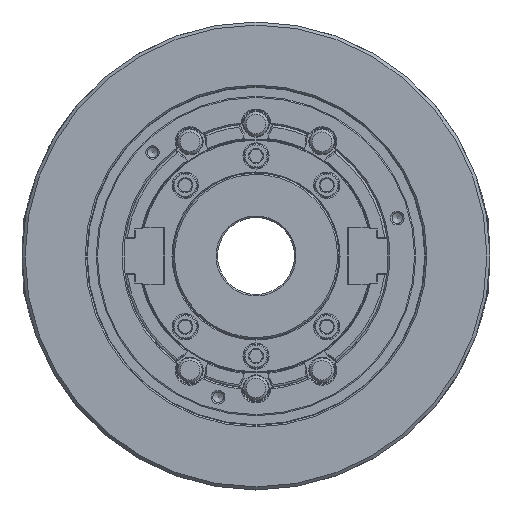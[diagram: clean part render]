
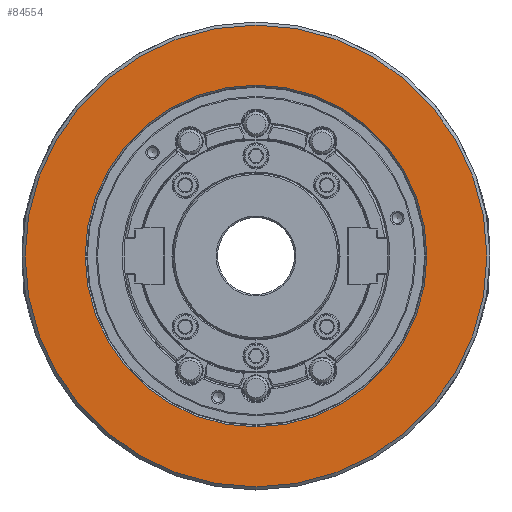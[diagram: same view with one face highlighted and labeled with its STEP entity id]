
A CAD part, left-side view. The second image highlights one B-rep face of the part: STEP entity #84554.
In plain terms, the highlighted planar face has unit normal (-1, 0, 0).
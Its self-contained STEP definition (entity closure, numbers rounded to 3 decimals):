
#3932 = EDGE_LOOP ( 'NONE', ( #33878 ) ) ;
#7821 = EDGE_CURVE ( 'NONE', #12007, #12007, #86313, .T. ) ;
#8239 = DIRECTION ( 'NONE',  ( -1., 0., 0. ) ) ;
#11375 = FACE_OUTER_BOUND ( 'NONE', #81422, .T. ) ;
#12007 = VERTEX_POINT ( 'NONE', #44813 ) ;
#17919 = DIRECTION ( 'NONE',  ( 0., 0., 1. ) ) ;
#26482 = DIRECTION ( 'NONE',  ( 0., 0., -1. ) ) ;
#33878 = ORIENTED_EDGE ( 'NONE', *, *, #7821, .F. ) ;
#40361 = VERTEX_POINT ( 'NONE', #106032 ) ;
#44813 = CARTESIAN_POINT ( 'NONE',  ( -110., 0., 111. ) ) ;
#45634 = DIRECTION ( 'NONE',  ( 1., 0., 0. ) ) ;
#50696 = FACE_BOUND ( 'NONE', #3932, .T. ) ;
#50719 = CARTESIAN_POINT ( 'NONE',  ( -110., 0., 0. ) ) ;
#59361 = PLANE ( 'NONE',  #83213 ) ;
#67440 = AXIS2_PLACEMENT_3D ( 'NONE', #50719, #8239, #17919 ) ;
#67488 = CARTESIAN_POINT ( 'NONE',  ( -110., 150., 0. ) ) ;
#73277 = DIRECTION ( 'NONE',  ( 0., 0., 1. ) ) ;
#79245 = DIRECTION ( 'NONE',  ( -1., 0., 0. ) ) ;
#81372 = CARTESIAN_POINT ( 'NONE',  ( -110., 0., 0. ) ) ;
#81422 = EDGE_LOOP ( 'NONE', ( #86517 ) ) ;
#82305 = CIRCLE ( 'NONE', #95985, 150. ) ;
#83213 = AXIS2_PLACEMENT_3D ( 'NONE', #67488, #45634, #26482 ) ;
#84554 = ADVANCED_FACE ( 'NONE', ( #50696, #11375 ), #59361, .F. ) ;
#86313 = CIRCLE ( 'NONE', #67440, 111. ) ;
#86517 = ORIENTED_EDGE ( 'NONE', *, *, #88353, .T. ) ;
#88353 = EDGE_CURVE ( 'NONE', #40361, #40361, #82305, .T. ) ;
#95985 = AXIS2_PLACEMENT_3D ( 'NONE', #81372, #79245, #73277 ) ;
#106032 = CARTESIAN_POINT ( 'NONE',  ( -110., 0., 150. ) ) ;
